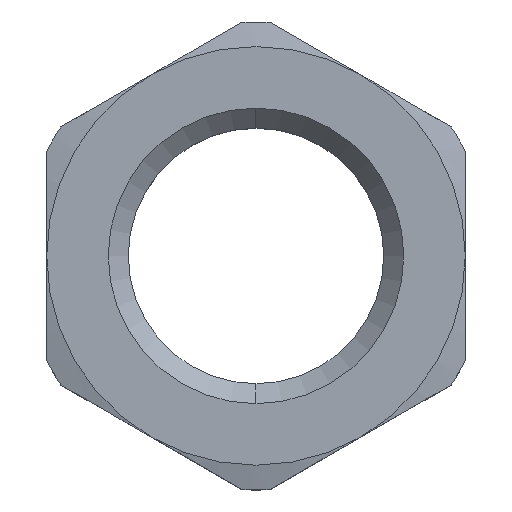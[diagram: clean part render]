
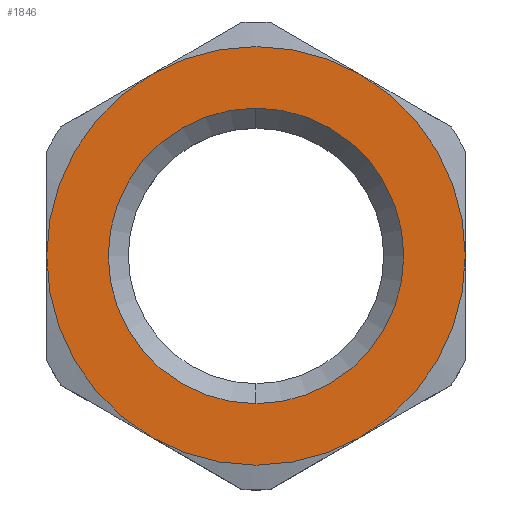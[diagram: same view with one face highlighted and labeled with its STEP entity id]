
A CAD part, top view. The second image highlights one B-rep face of the part: STEP entity #1846.
In plain terms, the highlighted planar face has unit normal (0, 0, 1).
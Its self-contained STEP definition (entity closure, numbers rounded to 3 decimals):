
#1020 = CARTESIAN_POINT ( 'NONE',  ( -8.5, 0., 0. ) ) ;
#1027 = DIRECTION ( 'NONE',  ( 1., 0., 0. ) ) ;
#1028 = DIRECTION ( 'NONE',  ( 0., 0., 1. ) ) ;
#1029 = CARTESIAN_POINT ( 'NONE',  ( 0., 0., 0. ) ) ;
#1030 = AXIS2_PLACEMENT_3D ( 'NONE', #1029, #1028, #1027 ) ;
#1031 = CIRCLE ( 'NONE', #1030, 8.5 ) ;
#1050 = DIRECTION ( 'NONE',  ( -1., 0., 0. ) ) ;
#1051 = DIRECTION ( 'NONE',  ( 0., 0., -1. ) ) ;
#1052 = CARTESIAN_POINT ( 'NONE',  ( 0., 0., 0. ) ) ;
#1053 = AXIS2_PLACEMENT_3D ( 'NONE', #1052, #1051, #1050 ) ;
#1054 = PLANE ( 'NONE',  #1053 ) ;
#1055 = FACE_BOUND ( 'NONE', #1952, .T. ) ;
#1056 = FACE_OUTER_BOUND ( 'NONE', #1857, .T. ) ;
#1061 = CIRCLE ( 'NONE', #1127, 8.5 ) ;
#1062 = CARTESIAN_POINT ( 'NONE',  ( 8.5, 0., 0. ) ) ;
#1124 = DIRECTION ( 'NONE',  ( 1., 0., 0. ) ) ;
#1125 = DIRECTION ( 'NONE',  ( 0., 0., 1. ) ) ;
#1126 = CARTESIAN_POINT ( 'NONE',  ( 0., 0., 0. ) ) ;
#1127 = AXIS2_PLACEMENT_3D ( 'NONE', #1126, #1125, #1124 ) ;
#1197 = CARTESIAN_POINT ( 'NONE',  ( -4.25, 7.361, 0. ) ) ;
#1198 = DIRECTION ( 'NONE',  ( 1., 0., 0. ) ) ;
#1199 = DIRECTION ( 'NONE',  ( 0., 0., 1. ) ) ;
#1200 = CARTESIAN_POINT ( 'NONE',  ( 0., 0., 0. ) ) ;
#1201 = AXIS2_PLACEMENT_3D ( 'NONE', #1200, #1199, #1198 ) ;
#1202 = CIRCLE ( 'NONE', #1201, 8.5 ) ;
#1203 = CARTESIAN_POINT ( 'NONE',  ( 4.25, 7.361, 0. ) ) ;
#1210 = DIRECTION ( 'NONE',  ( 1., 0., 0. ) ) ;
#1211 = DIRECTION ( 'NONE',  ( 0., 0., 1. ) ) ;
#1212 = CARTESIAN_POINT ( 'NONE',  ( 0., 0., 0. ) ) ;
#1213 = AXIS2_PLACEMENT_3D ( 'NONE', #1212, #1211, #1210 ) ;
#1214 = CIRCLE ( 'NONE', #1213, 8.5 ) ;
#1280 = DIRECTION ( 'NONE',  ( 0., -1., 0. ) ) ;
#1281 = DIRECTION ( 'NONE',  ( 0., 0., 1. ) ) ;
#1282 = CARTESIAN_POINT ( 'NONE',  ( 0., 0., 0. ) ) ;
#1283 = AXIS2_PLACEMENT_3D ( 'NONE', #1282, #1281, #1280 ) ;
#1284 = CIRCLE ( 'NONE', #1283, 6. ) ;
#1302 = CARTESIAN_POINT ( 'NONE',  ( 4.25, -7.361, 0. ) ) ;
#1312 = CARTESIAN_POINT ( 'NONE',  ( -4.25, -7.361, 0. ) ) ;
#1313 = DIRECTION ( 'NONE',  ( 1., 0., 0. ) ) ;
#1314 = DIRECTION ( 'NONE',  ( 0., 0., 1. ) ) ;
#1315 = AXIS2_PLACEMENT_3D ( 'NONE', #1320, #1314, #1313 ) ;
#1320 = CARTESIAN_POINT ( 'NONE',  ( 0., 0., 0. ) ) ;
#1322 = CIRCLE ( 'NONE', #1315, 8.5 ) ;
#1367 = DIRECTION ( 'NONE',  ( 0., -1., 0. ) ) ;
#1368 = DIRECTION ( 'NONE',  ( 0., 0., 1. ) ) ;
#1369 = CARTESIAN_POINT ( 'NONE',  ( 0., 0., 0. ) ) ;
#1370 = AXIS2_PLACEMENT_3D ( 'NONE', #1369, #1368, #1367 ) ;
#1371 = CIRCLE ( 'NONE', #1370, 6. ) ;
#1379 = DIRECTION ( 'NONE',  ( 1., 0., 0. ) ) ;
#1380 = DIRECTION ( 'NONE',  ( 0., 0., 1. ) ) ;
#1381 = CARTESIAN_POINT ( 'NONE',  ( 0., 0., 0. ) ) ;
#1382 = AXIS2_PLACEMENT_3D ( 'NONE', #1381, #1380, #1379 ) ;
#1387 = CIRCLE ( 'NONE', #1382, 8.5 ) ;
#1425 = CARTESIAN_POINT ( 'NONE',  ( 0., -6., 0. ) ) ;
#1426 = CARTESIAN_POINT ( 'NONE',  ( 0., 6., 0. ) ) ;
#1846 = ADVANCED_FACE ( 'NONE', ( #1056, #1055 ), #1054, .F. ) ;
#1847 = ORIENTED_EDGE ( 'NONE', *, *, #1886, .T. ) ;
#1854 = EDGE_CURVE ( 'NONE', #1903, #1897, #1031, .T. ) ;
#1857 = EDGE_LOOP ( 'NONE', ( #1847, #1889, #1880, #1901, #1904, #1947 ) ) ;
#1861 = ORIENTED_EDGE ( 'NONE', *, *, #1962, .F. ) ;
#1863 = VERTEX_POINT ( 'NONE', #1020 ) ;
#1873 = VERTEX_POINT ( 'NONE', #1062 ) ;
#1876 = EDGE_CURVE ( 'NONE', #1887, #1890, #1061, .T. ) ;
#1880 = ORIENTED_EDGE ( 'NONE', *, *, #1881, .T. ) ;
#1881 = EDGE_CURVE ( 'NONE', #1890, #1863, #1214, .T. ) ;
#1886 = EDGE_CURVE ( 'NONE', #1873, #1887, #1202, .T. ) ;
#1887 = VERTEX_POINT ( 'NONE', #1203 ) ;
#1889 = ORIENTED_EDGE ( 'NONE', *, *, #1876, .T. ) ;
#1890 = VERTEX_POINT ( 'NONE', #1197 ) ;
#1897 = VERTEX_POINT ( 'NONE', #1302 ) ;
#1901 = ORIENTED_EDGE ( 'NONE', *, *, #1902, .T. ) ;
#1902 = EDGE_CURVE ( 'NONE', #1863, #1903, #1322, .T. ) ;
#1903 = VERTEX_POINT ( 'NONE', #1312 ) ;
#1904 = ORIENTED_EDGE ( 'NONE', *, *, #1854, .T. ) ;
#1946 = ORIENTED_EDGE ( 'NONE', *, *, #2000, .F. ) ;
#1947 = ORIENTED_EDGE ( 'NONE', *, *, #1956, .T. ) ;
#1952 = EDGE_LOOP ( 'NONE', ( #1946, #1861 ) ) ;
#1956 = EDGE_CURVE ( 'NONE', #1897, #1873, #1387, .T. ) ;
#1962 = EDGE_CURVE ( 'NONE', #1978, #1979, #1371, .T. ) ;
#1978 = VERTEX_POINT ( 'NONE', #1426 ) ;
#1979 = VERTEX_POINT ( 'NONE', #1425 ) ;
#2000 = EDGE_CURVE ( 'NONE', #1979, #1978, #1284, .T. ) ;
